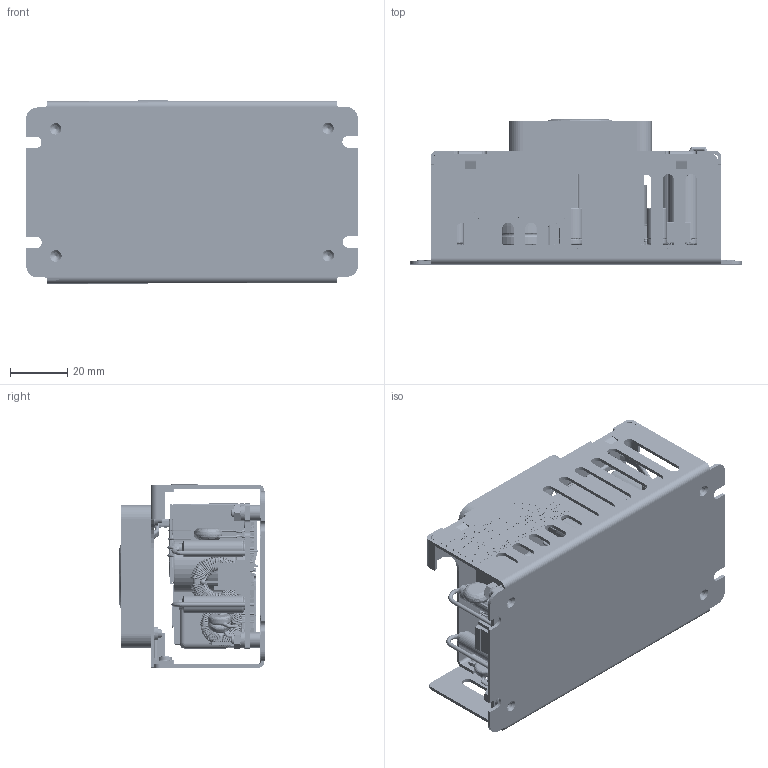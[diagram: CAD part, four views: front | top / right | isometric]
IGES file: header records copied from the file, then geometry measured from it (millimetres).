
Start section: SolidWorks IGES file using analytic representation for surfaces
Global section: file name: C:\pdm-wip\CUS-150M-F.IGS; native system: SolidWorks 2016; preprocessor: SolidWorks 2016; author: keith; date: 170607.143059; units: millimetre
Bounding box: 116.08 x 50.7 x 64.1 mm (x, y, z)
Surface area: 141862.7 mm2 (no closed solid volume)
Topology: 0 solids, 0 shells, 12969 faces, 99056 edges, 98909 vertices
Faces by surface type: bspline 10376, revolution 2593
